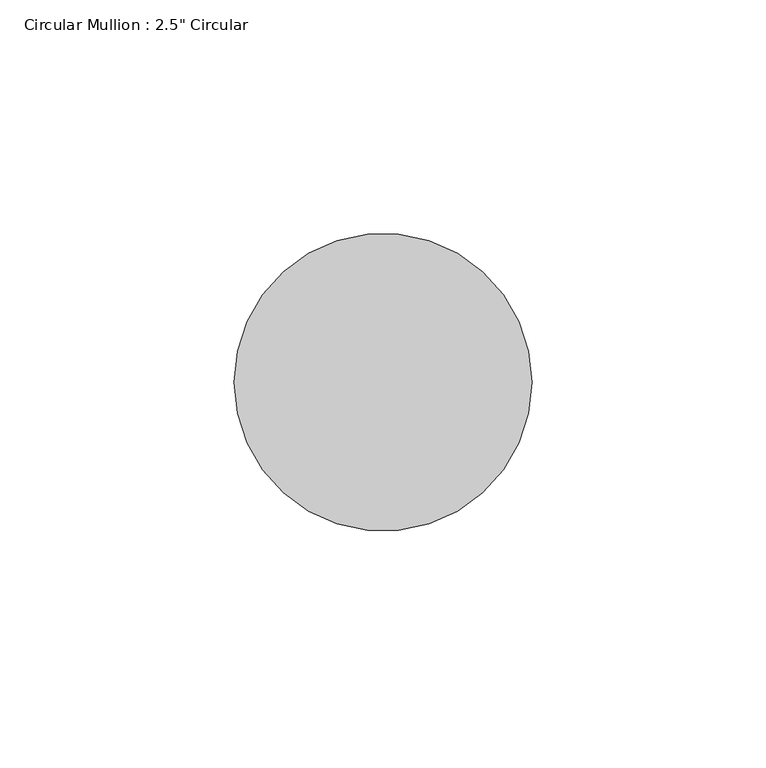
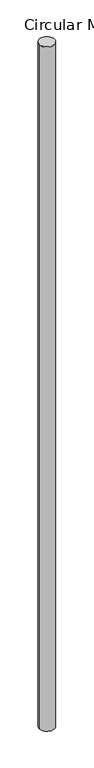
"""IFC4 building model written with IfcOpenShell, lengths in millimetres: member geometry."""

import ifcopenshell
import ifcopenshell.guid

model = None  # the IFC model being written
_history = None  # IfcOwnerHistory: only IFC2X3 demands one
_inside = {}  # id of a spatial element -> (the spatial element, [elements in it])
_under = {}  # id of a project, library or spatial element -> (it, [spatial elements below it])
_declared = {}  # id of a project -> (the project, [libraries it declares])
_typed = {}  # id of a type object -> (the type object, [elements of that type])
_made_of = {}  # id of a material, layer set ... -> (it, [elements and type objects made of it])


def new_model(schema):
    """Start an empty IFC model of exactly this schema.

    Asked for "IFC4X3", IfcOpenShell would pick the latest addendum, in which some entities
    have other attributes; the version numbers below select the first issue.
    IFC2X3 requires an IfcOwnerHistory on every rooted entity: one is made here for all.
    """
    global model, _history
    if schema == "IFC4X3":
        model = ifcopenshell.file(schema_version=(4, 3, 0, 0))
    else:
        model = ifcopenshell.file(schema=schema)
    _inside.clear()
    _under.clear()
    _declared.clear()
    _typed.clear()
    _made_of.clear()
    _history = None
    if model.schema == "IFC2X3":
        org = make("IfcOrganization", Name="unknown")
        user = make(
            "IfcPersonAndOrganization",
            ThePerson=make("IfcPerson", FamilyName="unknown"),
            TheOrganization=org,
        )
        app = make(
            "IfcApplication",
            ApplicationDeveloper=org,
            Version="unknown",
            ApplicationFullName="unknown",
            ApplicationIdentifier="unknown",
        )
        _history = make(
            "IfcOwnerHistory",
            OwningUser=user,
            OwningApplication=app,
            ChangeAction="ADDED",
            CreationDate=0,
        )
    return model


def make(cls, **values):
    """One entity of the class cls with the attributes given. An attribute that is None is left unset."""
    return model.create_entity(
        cls, **{name: value for name, value in values.items() if value is not None}
    )


def rooted(cls, **values):
    """An entity with a GlobalId (a new one), such as an element, a storey or a relation."""
    return make(cls, GlobalId=ifcopenshell.guid.new(), OwnerHistory=_history, **values)


def si_unit(unit_type, name, prefix=None):
    """IfcSIUnit, for example si_unit("LENGTHUNIT", "METRE", prefix="MILLI")."""
    return make("IfcSIUnit", UnitType=unit_type, Prefix=prefix, Name=name)


def assignment(units):
    """IfcUnitAssignment: the units of a project."""
    return None if units is None else make("IfcUnitAssignment", Units=units)


def point(xyz):
    """IfcCartesianPoint."""
    return None if xyz is None else make("IfcCartesianPoint", Coordinates=xyz)


def direction(xyz):
    """IfcDirection."""
    return None if xyz is None else make("IfcDirection", DirectionRatios=xyz)


def frame(location, z_axis=None, x_axis=None):
    """IfcAxis2Placement3D, a coordinate frame: its origin and axes. An axis left out is left unset."""
    return make(
        "IfcAxis2Placement3D",
        Location=point(location),
        Axis=direction(z_axis),
        RefDirection=direction(x_axis),
    )


def frame_2d(location, x_axis=None):
    """IfcAxis2Placement2D, a coordinate frame in the plane: its origin and x axis."""
    return make(
        "IfcAxis2Placement2D", Location=point(location), RefDirection=direction(x_axis)
    )


def origin():
    """The frame at (0, 0, 0) with its axes left unset."""
    return frame((0.0, 0.0, 0.0))


def origin_2d():
    """The frame at (0, 0) in the plane with its x axis left unset."""
    return frame_2d((0.0, 0.0))


def place(relative_to, where):
    """IfcLocalPlacement: puts the frame where relative to a parent placement (None: the world)."""
    return make(
        "IfcLocalPlacement", PlacementRelTo=relative_to, RelativePlacement=where
    )


def context(
    kind, dimensions, precision=None, world=None, true_north=None, identifier=None
):
    """IfcGeometricRepresentationContext, for example the 3D "Model" context."""
    return make(
        "IfcGeometricRepresentationContext",
        ContextIdentifier=identifier,
        ContextType=kind,
        CoordinateSpaceDimension=dimensions,
        Precision=precision,
        WorldCoordinateSystem=world,
        TrueNorth=true_north,
    )


def project(units=None, contexts=None):
    """IfcProject with its units and contexts."""
    return rooted(
        "IfcProject",
        Name="project",
        RepresentationContexts=contexts,
        UnitsInContext=assignment(units),
    )


def spatial(cls, under=None, at=None, **own):
    """A site, building, storey or space (cls), placed at a placement, below another one or the project."""
    s = rooted(cls, ObjectPlacement=at, **own)
    if under is not None:
        _under.setdefault(under.id(), (under, []))[1].append(s)
    return s


def circle_curve(where, radius):
    """IfcCircle in the frame where."""
    return make("IfcCircle", Position=where, Radius=radius)


def trimmed(basis, trim1, trim2, sense, master):
    """IfcTrimmedCurve: the piece of a basis curve between two trims."""
    return make(
        "IfcTrimmedCurve",
        BasisCurve=basis,
        Trim1=trim1,
        Trim2=trim2,
        SenseAgreement=sense,
        MasterRepresentation=master,
    )


def segment(curve, same_sense, transition):
    """IfcCompositeCurveSegment."""
    return make(
        "IfcCompositeCurveSegment",
        Transition=transition,
        SameSense=same_sense,
        ParentCurve=curve,
    )


def composite_curve(segments, self_intersect=None):
    """IfcCompositeCurve: segments joined end to end."""
    return make("IfcCompositeCurve", Segments=segments, SelfIntersect=self_intersect)


def outline(outer, holes=None, kind="AREA"):
    """IfcArbitraryClosedProfileDef: a profile drawn as a closed curve; with holes, ...WithVoids."""
    if holes is None:
        return make("IfcArbitraryClosedProfileDef", ProfileType=kind, OuterCurve=outer)
    return make(
        "IfcArbitraryProfileDefWithVoids",
        ProfileType=kind,
        OuterCurve=outer,
        InnerCurves=holes,
    )


def extrude(swept, where, along, depth):
    """IfcExtrudedAreaSolid: the profile swept, set in the frame where, extruded along a direction by depth."""
    return make(
        "IfcExtrudedAreaSolid",
        SweptArea=swept,
        Position=where,
        ExtrudedDirection=direction(along),
        Depth=depth,
    )


def shape(context_of_items, identifier, shape_type, items):
    """IfcShapeRepresentation: the items that make up one representation, for example the "Body"."""
    return make(
        "IfcShapeRepresentation",
        ContextOfItems=context_of_items,
        RepresentationIdentifier=identifier,
        RepresentationType=shape_type,
        Items=items,
    )


def source(mapping_origin, context_of_items, identifier, shape_type, items):
    """IfcRepresentationMap: a shape defined once, which mapped items show again and again."""
    return make(
        "IfcRepresentationMap",
        MappingOrigin=mapping_origin,
        MappedRepresentation=shape(context_of_items, identifier, shape_type, items),
    )


def transform(
    local_origin,
    x_axis=None,
    y_axis=None,
    z_axis=None,
    scale=None,
    scale2=None,
    scale3=None,
    uniform=True,
):
    """IfcCartesianTransformationOperator3D, or its non-uniform kind. x_axis, y_axis, z_axis: its Axis1, 2, 3."""
    if uniform:
        return make(
            "IfcCartesianTransformationOperator3D",
            Axis1=direction(x_axis),
            Axis2=direction(y_axis),
            LocalOrigin=point(local_origin),
            Scale=scale,
            Axis3=direction(z_axis),
        )
    return make(
        "IfcCartesianTransformationOperator3DnonUniform",
        Axis1=direction(x_axis),
        Axis2=direction(y_axis),
        LocalOrigin=point(local_origin),
        Scale=scale,
        Axis3=direction(z_axis),
        Scale2=scale2,
        Scale3=scale3,
    )


def mapped(mapping_source, mapping_target):
    """IfcMappedItem: shows the shape of a source again, moved by a transform."""
    return make(
        "IfcMappedItem", MappingSource=mapping_source, MappingTarget=mapping_target
    )


def made_of(thing, what):
    """Note that an element or type object is made of a material, layer set ...; save() writes the relation."""
    if what is not None:
        _made_of.setdefault(what.id(), (what, []))[1].append(thing)
    return thing


def element(
    cls,
    number,
    at=None,
    inside=None,
    cuts=None,
    type_object=None,
    material=None,
    context=None,
    identifier="Body",
    shape_type=None,
    held_by="IfcProductDefinitionShape",
    body=None,
    shapes=None,
    **own,
):
    """One element of the class cls, such as IfcWall. Its Tag is "e" and its number.

    at: its placement. inside: the storey or other place that contains it. cuts: it is an
    opening in that element (IfcRelVoidsElement). A single representation is given by context,
    identifier, shape_type and body (its items); several are given by shapes. held_by: the class
    of the entity that holds the representations. save() writes the other relations.
    """
    e = rooted(cls, Tag="e%d" % number, ObjectPlacement=at, **own)
    if body is not None:
        shapes = [shape(context, identifier, shape_type, body)]
    if shapes is not None:
        e.Representation = make(held_by, Representations=shapes)
    if inside is not None:
        _inside.setdefault(inside.id(), (inside, []))[1].append(e)
    if cuts is not None:
        rooted(
            "IfcRelVoidsElement", RelatingBuildingElement=cuts, RelatedOpeningElement=e
        )
    if type_object is not None:
        _typed.setdefault(type_object.id(), (type_object, []))[1].append(e)
    return made_of(e, material)


def aggregate(whole, parts):
    """IfcRelAggregates: a whole, such as a stair, and the parts it consists of."""
    return rooted("IfcRelAggregates", RelatingObject=whole, RelatedObjects=parts)


def save(model, path):
    """Write the relations noted so far, then the file.

    IfcRelAggregates (storeys below a building ...), IfcRelContainedInSpatialStructure (elements
    in a storey), IfcRelDefinesByType, IfcRelAssociatesMaterial and IfcRelDeclares: one each for
    every whole, place, type object, material and project.
    """
    for whole, parts in _under.values():
        aggregate(whole, parts)
    for where, things in _inside.values():
        rooted(
            "IfcRelContainedInSpatialStructure",
            RelatedElements=things,
            RelatingStructure=where,
        )
    for kind, things in _typed.values():
        rooted("IfcRelDefinesByType", RelatedObjects=things, RelatingType=kind)
    for what, things in _made_of.values():
        rooted("IfcRelAssociatesMaterial", RelatedObjects=things, RelatingMaterial=what)
    for by, libraries in _declared.values():
        rooted("IfcRelDeclares", RelatingContext=by, RelatedDefinitions=libraries)
    model.write(path)


def member_5a8dcc5f(model_context):
    return source(origin(), model_context, "Body", "SweptSolid", [
        extrude(outline(composite_curve([segment(trimmed(circle_curve(origin_2d(), 31.75), [point((31.75, 0.0))], [point((-31.75, 0.0))], False, "CARTESIAN"), True, "CONTINUOUS"), segment(trimmed(circle_curve(origin_2d(), 31.75), [point((-31.75, 0.0))], [point((31.75, 0.0))], False, "CARTESIAN"), True, "CONTINUOUS")], self_intersect=False)), frame((0.0, 0.0, -2971.7327515), z_axis=(0.0, 0.0, 1.0), x_axis=(1.0, 0.0, 0.0)), (0.0, 0.0, 1.0), 2971.7327515),
    ])


if __name__ == "__main__":
    model = new_model("IFC4")
    model_context = context("Model", 3, world=origin())
    ifc_project = project(units=[si_unit("LENGTHUNIT", "METRE", prefix="MILLI")], contexts=[model_context])
    site = spatial("IfcSite", under=ifc_project)
    building = spatial("IfcBuilding", under=site)
    placement = place(None, origin())
    member_shape = member_5a8dcc5f(model_context)
    element("IfcMember", 1, ObjectType="Circular Mullion : 2.5\" Circular", at=placement, inside=building, context=model_context, shape_type="MappedRepresentation", body=[
        mapped(member_shape, transform((0.0, 0.0, 0.0), x_axis=(1.0, 0.0, 0.0), y_axis=(0.0, 1.0, 0.0), z_axis=(0.0, 0.0, 1.0))),
    ])
    save(model, "model.ifc")
